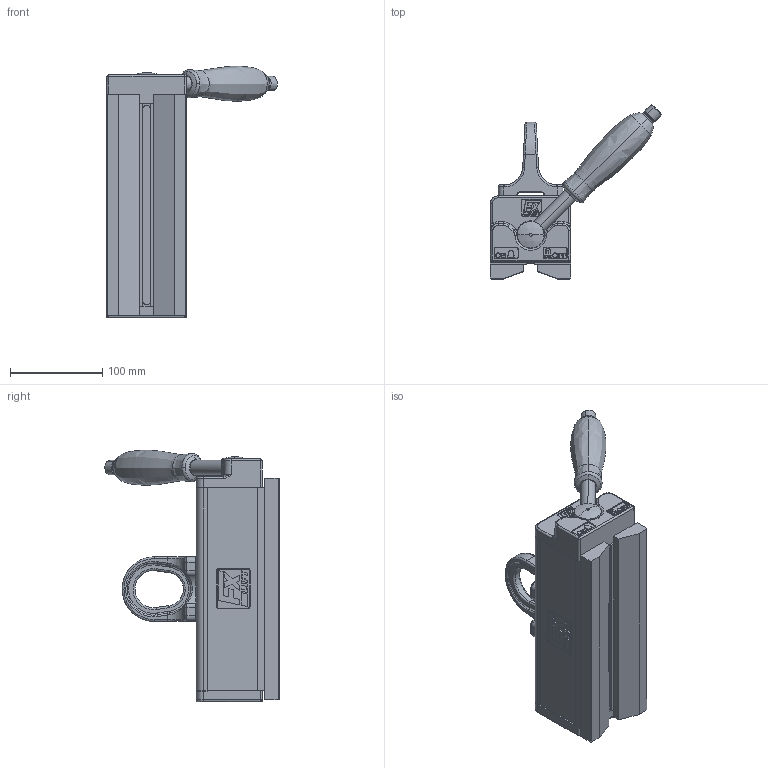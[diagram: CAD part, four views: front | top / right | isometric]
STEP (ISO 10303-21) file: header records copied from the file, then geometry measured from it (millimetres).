
FILE_DESCRIPTION (( 'STEP AP203' ), '1' );
FILE_NAME ('FX P 330 Vertrieb.STEP', '2016-09-22T06:31:41', ( '' ), ( '' ), 'SwSTEP 2.0', 'SolidWorks 2013', '' );
FILE_SCHEMA (( 'CONFIG_CONTROL_DESIGN' ));
Products named in the file (1): FX P 330 Vertrieb
Bounding box: 185.26 x 188.79 x 272.44 mm (x, y, z)
Volume: 1983680.2 mm3; surface area: 174423.9 mm2
Topology: 1 solids, 1 shells, 1166 faces, 2937 edges, 1699 vertices
Faces by surface type: plane 424, bspline 392, cylinder 170, cone 160, torus 16, sphere 4
Entity records: 72458 total; most frequent: CARTESIAN_POINT 47884, ORIENTED_EDGE 5620, DIRECTION 4210, EDGE_CURVE 2810, VERTEX_POINT 1699, VECTOR 1462, LINE 1462, AXIS2_PLACEMENT_3D 1374
